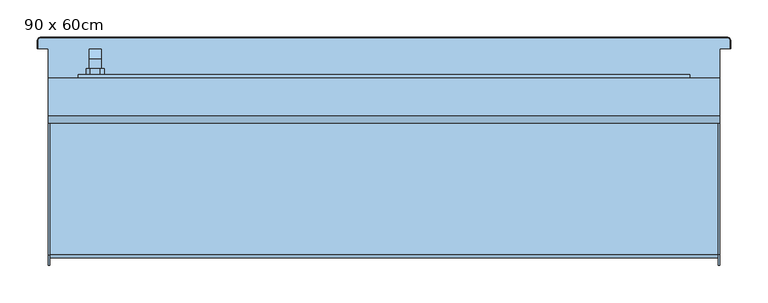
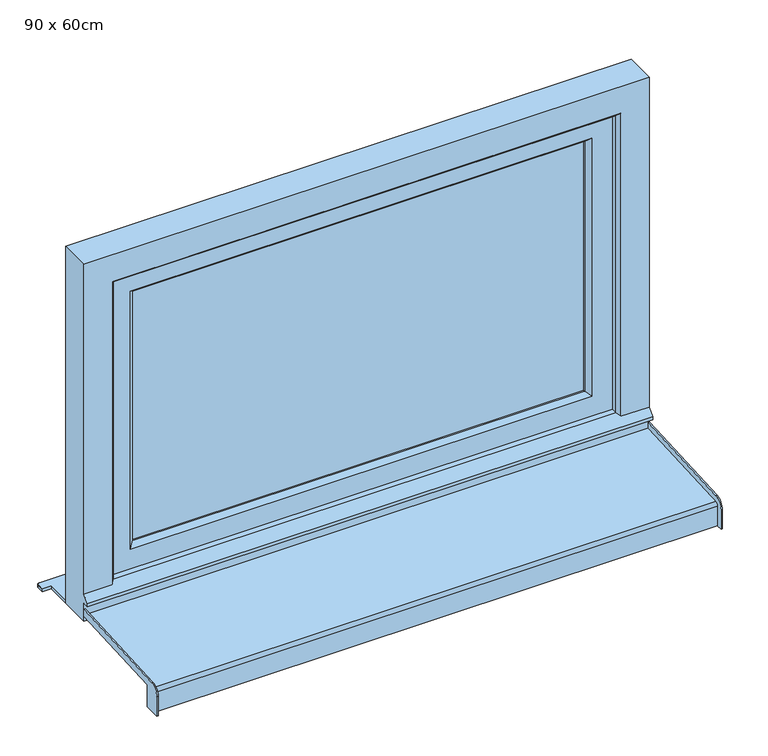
"""IFC4 building model written with IfcOpenShell, lengths in millimetres: window geometry, Fenêtre type 1 : 90 x 60cm."""

import ifcopenshell
import ifcopenshell.guid

model = None  # the IFC model being written
_history = None  # IfcOwnerHistory: only IFC2X3 demands one
_inside = {}  # id of a spatial element -> (the spatial element, [elements in it])
_under = {}  # id of a project, library or spatial element -> (it, [spatial elements below it])
_declared = {}  # id of a project -> (the project, [libraries it declares])
_typed = {}  # id of a type object -> (the type object, [elements of that type])
_made_of = {}  # id of a material, layer set ... -> (it, [elements and type objects made of it])


def new_model(schema):
    """Start an empty IFC model of exactly this schema.

    Asked for "IFC4X3", IfcOpenShell would pick the latest addendum, in which some entities
    have other attributes; the version numbers below select the first issue.
    IFC2X3 requires an IfcOwnerHistory on every rooted entity: one is made here for all.
    """
    global model, _history
    if schema == "IFC4X3":
        model = ifcopenshell.file(schema_version=(4, 3, 0, 0))
    else:
        model = ifcopenshell.file(schema=schema)
    _inside.clear()
    _under.clear()
    _declared.clear()
    _typed.clear()
    _made_of.clear()
    _history = None
    if model.schema == "IFC2X3":
        org = make("IfcOrganization", Name="unknown")
        user = make(
            "IfcPersonAndOrganization",
            ThePerson=make("IfcPerson", FamilyName="unknown"),
            TheOrganization=org,
        )
        app = make(
            "IfcApplication",
            ApplicationDeveloper=org,
            Version="unknown",
            ApplicationFullName="unknown",
            ApplicationIdentifier="unknown",
        )
        _history = make(
            "IfcOwnerHistory",
            OwningUser=user,
            OwningApplication=app,
            ChangeAction="ADDED",
            CreationDate=0,
        )
    return model


def make(cls, **values):
    """One entity of the class cls with the attributes given. An attribute that is None is left unset."""
    return model.create_entity(
        cls, **{name: value for name, value in values.items() if value is not None}
    )


def rooted(cls, **values):
    """An entity with a GlobalId (a new one), such as an element, a storey or a relation."""
    return make(cls, GlobalId=ifcopenshell.guid.new(), OwnerHistory=_history, **values)


def si_unit(unit_type, name, prefix=None):
    """IfcSIUnit, for example si_unit("LENGTHUNIT", "METRE", prefix="MILLI")."""
    return make("IfcSIUnit", UnitType=unit_type, Prefix=prefix, Name=name)


def assignment(units):
    """IfcUnitAssignment: the units of a project."""
    return None if units is None else make("IfcUnitAssignment", Units=units)


def point(xyz):
    """IfcCartesianPoint."""
    return None if xyz is None else make("IfcCartesianPoint", Coordinates=xyz)


def direction(xyz):
    """IfcDirection."""
    return None if xyz is None else make("IfcDirection", DirectionRatios=xyz)


def frame(location, z_axis=None, x_axis=None):
    """IfcAxis2Placement3D, a coordinate frame: its origin and axes. An axis left out is left unset."""
    return make(
        "IfcAxis2Placement3D",
        Location=point(location),
        Axis=direction(z_axis),
        RefDirection=direction(x_axis),
    )


def origin():
    """The frame at (0, 0, 0) with its axes left unset."""
    return frame((0.0, 0.0, 0.0))


def place(relative_to, where):
    """IfcLocalPlacement: puts the frame where relative to a parent placement (None: the world)."""
    return make(
        "IfcLocalPlacement", PlacementRelTo=relative_to, RelativePlacement=where
    )


def context(
    kind, dimensions, precision=None, world=None, true_north=None, identifier=None
):
    """IfcGeometricRepresentationContext, for example the 3D "Model" context."""
    return make(
        "IfcGeometricRepresentationContext",
        ContextIdentifier=identifier,
        ContextType=kind,
        CoordinateSpaceDimension=dimensions,
        Precision=precision,
        WorldCoordinateSystem=world,
        TrueNorth=true_north,
    )


def project(units=None, contexts=None):
    """IfcProject with its units and contexts."""
    return rooted(
        "IfcProject",
        Name="project",
        RepresentationContexts=contexts,
        UnitsInContext=assignment(units),
    )


def spatial(cls, under=None, at=None, **own):
    """A site, building, storey or space (cls), placed at a placement, below another one or the project."""
    s = rooted(cls, ObjectPlacement=at, **own)
    if under is not None:
        _under.setdefault(under.id(), (under, []))[1].append(s)
    return s


def polyline(points):
    """IfcPolyline through the points."""
    return make("IfcPolyline", Points=[point(p) for p in points])


def circle_curve(where, radius):
    """IfcCircle in the frame where."""
    return make("IfcCircle", Position=where, Radius=radius)


def outline(outer, holes=None, kind="AREA"):
    """IfcArbitraryClosedProfileDef: a profile drawn as a closed curve; with holes, ...WithVoids."""
    if holes is None:
        return make("IfcArbitraryClosedProfileDef", ProfileType=kind, OuterCurve=outer)
    return make(
        "IfcArbitraryProfileDefWithVoids",
        ProfileType=kind,
        OuterCurve=outer,
        InnerCurves=holes,
    )


def extrude(swept, where, along, depth):
    """IfcExtrudedAreaSolid: the profile swept, set in the frame where, extruded along a direction by depth."""
    return make(
        "IfcExtrudedAreaSolid",
        SweptArea=swept,
        Position=where,
        ExtrudedDirection=direction(along),
        Depth=depth,
    )


def faces_of(points, faces, orient=None, outer=None):
    """IfcFace entities. A face is a list of loops; a loop is a list of indices into points, from 0.

    orient and outer hold one flag for each loop. By default every Orientation is true, the
    first loop of a face is its IfcFaceOuterBound and the others are IfcFaceBound.
    """
    made = []
    for i, loops in enumerate(faces):
        bounds = []
        for j, loop in enumerate(loops):
            is_outer = j == 0 if outer is None else outer[i][j]
            bounds.append(
                make(
                    "IfcFaceOuterBound" if is_outer else "IfcFaceBound",
                    Bound=make("IfcPolyLoop", Polygon=[points[k] for k in loop]),
                    Orientation=True if orient is None else orient[i][j],
                )
            )
        made.append(make("IfcFace", Bounds=bounds))
    return made


def faceted_brep(points, faces, orient=None, outer=None, voids=None):
    """IfcFacetedBrep: a solid bounded by flat faces; with voids (closed shells), ...WithVoids."""
    shared = [point(p) for p in points]
    hull = make("IfcClosedShell", CfsFaces=faces_of(shared, faces, orient, outer))
    if voids is None:
        return make("IfcFacetedBrep", Outer=hull)
    return make(
        "IfcFacetedBrepWithVoids",
        Outer=hull,
        Voids=[
            make(cls, CfsFaces=faces_of(shared, fs, o, b)) for cls, fs, o, b in voids
        ],
    )


def shape(context_of_items, identifier, shape_type, items):
    """IfcShapeRepresentation: the items that make up one representation, for example the "Body"."""
    return make(
        "IfcShapeRepresentation",
        ContextOfItems=context_of_items,
        RepresentationIdentifier=identifier,
        RepresentationType=shape_type,
        Items=items,
    )


def source(mapping_origin, context_of_items, identifier, shape_type, items):
    """IfcRepresentationMap: a shape defined once, which mapped items show again and again."""
    return make(
        "IfcRepresentationMap",
        MappingOrigin=mapping_origin,
        MappedRepresentation=shape(context_of_items, identifier, shape_type, items),
    )


def transform(
    local_origin,
    x_axis=None,
    y_axis=None,
    z_axis=None,
    scale=None,
    scale2=None,
    scale3=None,
    uniform=True,
):
    """IfcCartesianTransformationOperator3D, or its non-uniform kind. x_axis, y_axis, z_axis: its Axis1, 2, 3."""
    if uniform:
        return make(
            "IfcCartesianTransformationOperator3D",
            Axis1=direction(x_axis),
            Axis2=direction(y_axis),
            LocalOrigin=point(local_origin),
            Scale=scale,
            Axis3=direction(z_axis),
        )
    return make(
        "IfcCartesianTransformationOperator3DnonUniform",
        Axis1=direction(x_axis),
        Axis2=direction(y_axis),
        LocalOrigin=point(local_origin),
        Scale=scale,
        Axis3=direction(z_axis),
        Scale2=scale2,
        Scale3=scale3,
    )


def mapped(mapping_source, mapping_target):
    """IfcMappedItem: shows the shape of a source again, moved by a transform."""
    return make(
        "IfcMappedItem", MappingSource=mapping_source, MappingTarget=mapping_target
    )


def made_of(thing, what):
    """Note that an element or type object is made of a material, layer set ...; save() writes the relation."""
    if what is not None:
        _made_of.setdefault(what.id(), (what, []))[1].append(thing)
    return thing


def element(
    cls,
    number,
    at=None,
    inside=None,
    cuts=None,
    type_object=None,
    material=None,
    context=None,
    identifier="Body",
    shape_type=None,
    held_by="IfcProductDefinitionShape",
    body=None,
    shapes=None,
    **own,
):
    """One element of the class cls, such as IfcWall. Its Tag is "e" and its number.

    at: its placement. inside: the storey or other place that contains it. cuts: it is an
    opening in that element (IfcRelVoidsElement). A single representation is given by context,
    identifier, shape_type and body (its items); several are given by shapes. held_by: the class
    of the entity that holds the representations. save() writes the other relations.
    """
    e = rooted(cls, Tag="e%d" % number, ObjectPlacement=at, **own)
    if body is not None:
        shapes = [shape(context, identifier, shape_type, body)]
    if shapes is not None:
        e.Representation = make(held_by, Representations=shapes)
    if inside is not None:
        _inside.setdefault(inside.id(), (inside, []))[1].append(e)
    if cuts is not None:
        rooted(
            "IfcRelVoidsElement", RelatingBuildingElement=cuts, RelatedOpeningElement=e
        )
    if type_object is not None:
        _typed.setdefault(type_object.id(), (type_object, []))[1].append(e)
    return made_of(e, material)


def aggregate(whole, parts):
    """IfcRelAggregates: a whole, such as a stair, and the parts it consists of."""
    return rooted("IfcRelAggregates", RelatingObject=whole, RelatedObjects=parts)


def save(model, path):
    """Write the relations noted so far, then the file.

    IfcRelAggregates (storeys below a building ...), IfcRelContainedInSpatialStructure (elements
    in a storey), IfcRelDefinesByType, IfcRelAssociatesMaterial and IfcRelDeclares: one each for
    every whole, place, type object, material and project.
    """
    for whole, parts in _under.values():
        aggregate(whole, parts)
    for where, things in _inside.values():
        rooted(
            "IfcRelContainedInSpatialStructure",
            RelatedElements=things,
            RelatingStructure=where,
        )
    for kind, things in _typed.values():
        rooted("IfcRelDefinesByType", RelatedObjects=things, RelatingType=kind)
    for what, things in _made_of.values():
        rooted("IfcRelAssociatesMaterial", RelatedObjects=things, RelatingMaterial=what)
    for by, libraries in _declared.values():
        rooted("IfcRelDeclares", RelatingContext=by, RelatedDefinitions=libraries)
    model.write(path)


def plane_surface(at):
    """IfcPlane: the flat surface through the origin of the frame at, square to its z axis."""
    return make("IfcPlane", Position=at)


def cylinder_surface(at, radius):
    """IfcCylindricalSurface: all points at the distance radius from the z axis of the frame at."""
    return make("IfcCylindricalSurface", Position=at, Radius=radius)


def revolved_surface(curve, axis_point, axis_direction):
    """IfcSurfaceOfRevolution: the curve turned about the line through axis_point along axis_direction."""
    return make(
        "IfcSurfaceOfRevolution",
        SweptCurve=make("IfcArbitraryOpenProfileDef", ProfileType="CURVE", Curve=curve),
        AxisPosition=make("IfcAxis1Placement", Location=point(axis_point), Axis=direction(axis_direction)),
    )


def advanced_brep(points, edges, surfaces, faces):
    """IfcAdvancedBrep: a solid bounded by faces that lie on surfaces and meet in shared edges.

    An edge is (start, end): straight between two places in points (the first is 0);
    or (start, end, curve); or (start, end, curve, False) where it runs against its curve.
    A face is (place in surfaces, loops), or (place, loops, False) where it looks against
    its surface's normal. A loop lists edges by number (the first is 1), with a minus sign
    where the edge is run from its end to its start. The first loop is the outer one.
    """
    corners = [point(p) for p in points]
    vertices = [make("IfcVertexPoint", VertexGeometry=c) for c in corners]
    made = []
    for start, end, *more in edges:
        made.append(
            make(
                "IfcEdgeCurve",
                EdgeStart=vertices[start],
                EdgeEnd=vertices[end],
                EdgeGeometry=more[0] if more else make("IfcPolyline", Points=[corners[start], corners[end]]),
                SameSense=more[1] if len(more) > 1 else True,
            )
        )
    hull = []
    for where, loops, *sense in faces:
        bounds = []
        for j, loop in enumerate(loops):
            ring = [make("IfcOrientedEdge", EdgeElement=made[abs(k) - 1], Orientation=k > 0) for k in loop]
            bounds.append(
                make(
                    "IfcFaceOuterBound" if j == 0 else "IfcFaceBound",
                    Bound=make("IfcEdgeLoop", EdgeList=ring),
                    Orientation=True,
                )
            )
        hull.append(make("IfcAdvancedFace", Bounds=bounds, FaceSurface=surfaces[where], SameSense=sense[0] if sense else True))
    return make("IfcAdvancedBrep", Outer=make("IfcClosedShell", CfsFaces=hull))


def window_90_x_60cm_7dc5db21(model_context):
    return source(origin(), model_context, "Body", "SolidModel", [
        faceted_brep([(-395.5, 98.0, 1306.0), (-395.5, 98.0, 1294.0), (-379.5, 98.0, 1294.0), (-379.5, 98.0, 1306.0), (-379.5, 110.4852814, 1306.0), (-395.5, 110.4852814, 1306.0), (-379.5, 105.5147186, 1294.0), (-379.5, 112.0, 1287.5147186), (-379.5, 112.0, 1287.2282668), (-379.5, 114.7580139, 1208.5355339), (-379.5, 124.0, 1208.5355339), (-379.5, 124.0, 1292.4852814), (-395.5, 105.5147186, 1294.0), (-395.5, 124.0, 1292.4852814), (-395.5, 124.0, 1208.5355339), (-395.5, 114.7580139, 1208.5355339), (-395.5, 112.0099909, 1287.2286157), (-395.5, 112.0, 1287.5147186), (-383.0355339, 124.0, 1205.0), (-383.0355339, 114.8814775, 1205.0), (-391.9644661, 114.8814775, 1205.0), (-391.9644661, 124.0, 1205.0)], [[[0, 1, 2, 3]], [[3, 4, 5, 0]], [[2, 6, 7, 8, 9, 10, 11, 4, 3]], [[1, 12, 6, 2]], [[0, 5, 13, 14, 15, 16, 17, 12, 1]], [[4, 11, 13, 5]], [[6, 12, 17, 7]], [[18, 19, 20, 21]], [[11, 10, 18, 21, 14, 13]], [[17, 16, 8, 7]], [[16, 15, 20, 19, 9, 8]], [[9, 19, 18, 10]], [[14, 21, 20, 15]]]),
        extrude(outline(polyline([(1330.0, -394.5), (1325.0, -399.5), (1275.0, -399.5), (1270.0, -394.5), (1270.0, -380.5), (1275.0, -375.5), (1325.0, -375.5), (1330.0, -380.5), (1330.0, -394.5)])), frame((0.0, 90.0, 0.0), z_axis=(0.0, 1.0, 0.0), x_axis=(0.0, 0.0, 1.0)), (0.0, 0.0, 1.0), 8.0),
        advanced_brep(
        [(-450.0, -140.0, 762.0), (-450.0, -166.5, 762.0), (-450.0, -166.5, 795.1063906), (-450.0, -152.2850393, 810.0858337), (-450.0, 35.0, 819.9010267), (-450.0, 35.0, 808.3852447), (-450.0, -140.0, 799.2138833), (450.0, -140.0, 799.2138833), (450.0, 35.0, 808.3852447), (450.0, 35.0, 819.9010267), (450.0, -152.2850393, 810.0858337), (450.0, -166.5, 795.1063906), (450.0, -166.5, 762.0), (450.0, -140.0, 762.0), (-448.0, 35.0, 819.9010267), (-448.0, 35.0, 809.8873032), (448.0, 35.0, 809.8873032), (448.0, 35.0, 819.9010267), (-448.0, -151.7616798, 800.0995383), (448.0, -151.7616798, 800.0995383), (448.0, -156.5, 795.1063906), (-448.0, -156.5, 795.1063906), (-448.0, -156.5, 762.0), (448.0, -156.5, 762.0), (-448.0, -155.0, 762.0), (448.0, -155.0, 762.0), (448.0, -140.0, 762.0), (448.0, -166.5, 762.0), (-448.0, -166.5, 762.0), (-448.0, -140.0, 762.0), (-448.0, -145.0, 772.0), (448.0, -145.0, 772.0), (-448.0, -146.0606602, 773.0606602), (448.0, -146.0606602, 773.0606602), (-448.0, -155.0, 764.1213203), (448.0, -155.0, 764.1213203), (-448.0, -155.0, 795.0728058), (448.0, -155.0, 795.0728058), (-448.0, -140.0, 799.2138833), (448.0, -140.0, 799.2138833), (448.0, -151.649637, 798.6033517), (-448.0, -151.649637, 798.6033517), (448.0, -166.5, 795.1063906), (448.0, -152.2850393, 810.0858337), (-448.0, -152.2850393, 810.0858337), (-448.0, -166.5, 795.1063906)],
        [
            (0, 1),
            (1, 2),
            (2, 3, circle_curve(frame((-450.0, -151.5, 795.1063906), z_axis=(-1.0, 0.0, 0.0), x_axis=(0.0, -0.05233595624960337, 0.9986295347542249)), 15.0)),
            (3, 4),
            (4, 5),
            (5, 6),
            (6, 0),
            (7, 8),
            (8, 9),
            (9, 10),
            (10, 11, circle_curve(frame((450.0, -151.5, 795.1063906), z_axis=(1.0, 0.0, 0.0), x_axis=(0.0, -1.0, 0.0)), 15.0)),
            (11, 12),
            (12, 13),
            (13, 7),
            (14, 15),
            (15, 16),
            (16, 17),
            (17, 9),
            (8, 5),
            (4, 14),
            (18, 19),
            (19, 16),
            (15, 18),
            (20, 21),
            (21, 22),
            (22, 23),
            (23, 20),
            (24, 25),
            (25, 26),
            (26, 13),
            (12, 27),
            (27, 23),
            (22, 28),
            (28, 1),
            (0, 29),
            (29, 24),
            (30, 31),
            (31, 25),
            (24, 30),
            (32, 33),
            (33, 31),
            (30, 32),
            (34, 35),
            (35, 33),
            (32, 34),
            (36, 37),
            (37, 35),
            (34, 36),
            (38, 6),
            (7, 39),
            (39, 40),
            (40, 41),
            (41, 38),
            (41, 36, circle_curve(frame((-448.0, -151.4646089, 795.0728058), z_axis=(1.0, 0.0, 0.0), x_axis=(0.0, 1.0, 0.0)), 3.5353911)),
            (29, 38),
            (37, 40, circle_curve(frame((448.0, -151.4646089, 795.0728058), z_axis=(-1.0, 0.0, 0.0), x_axis=(0.0, 1.0, 0.0)), 3.5353911)),
            (39, 26),
            (18, 21, circle_curve(frame((-448.0, -151.5, 795.1063906), z_axis=(1.0, 0.0, 0.0), x_axis=(0.0, 1.0, 0.0)), 5.0)),
            (20, 19, circle_curve(frame((448.0, -151.5, 795.1063906), z_axis=(-1.0, 0.0, 0.0), x_axis=(0.0, 1.0, 0.0)), 5.0)),
            (27, 42),
            (42, 43, circle_curve(frame((448.0, -151.5, 795.1063906), z_axis=(-1.0, 0.0, 0.0), x_axis=(0.0, -1.0, 0.0)), 15.0)),
            (43, 17),
            (11, 42),
            (10, 43),
            (14, 44),
            (44, 45, circle_curve(frame((-448.0, -151.5, 795.1063906), z_axis=(1.0, 0.0, 0.0), x_axis=(0.0, -0.05233595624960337, 0.9986295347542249)), 15.0)),
            (45, 28),
            (3, 44),
            (2, 45),
        ],
        [
            plane_surface(frame((-450.0, 35.0, 808.3852447), z_axis=(-1.0, 0.0, 0.0), x_axis=(0.0, 0.0, 1.0))),
            plane_surface(frame((450.0, 35.0, 808.3852447), z_axis=(1.0, 0.0, 0.0), x_axis=(0.0, 0.0, -1.0))),
            plane_surface(frame((-450.0, 35.0, 808.3852447), z_axis=(0.0, 1.0, 0.0), x_axis=(1.0, 0.0, 0.0))),
            plane_surface(frame((-450.0, 35.0, 809.8873032), z_axis=(0.0, -0.052335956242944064, 0.9986295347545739), x_axis=(1.0, 0.0, 0.0))),
            plane_surface(frame((-450.0, -156.5, 795.1063906), z_axis=(0.0, -1.0, 0.0), x_axis=(1.0, 0.0, 0.0))),
            plane_surface(frame((-450.0, -156.5, 762.0), z_axis=(0.0, 0.0, -1.0), x_axis=(1.0, 0.0, 0.0))),
            plane_surface(frame((-450.0, -155.0, 762.0), z_axis=(0.0, 0.7071067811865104, -0.7071067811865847), x_axis=(1.0, 0.0, 0.0))),
            plane_surface(frame((-450.0, -145.0, 772.0), z_axis=(0.0, 0.7071067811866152, 0.7071067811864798), x_axis=(1.0, 0.0, 0.0))),
            plane_surface(frame((-450.0, -146.0606602, 773.0606602), z_axis=(0.0, -0.7071067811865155, 0.7071067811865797), x_axis=(1.0, 0.0, 0.0))),
            plane_surface(frame((-450.0, -155.0, 764.1213203), z_axis=(0.0, 1.0, 0.0), x_axis=(1.0, 0.0, 0.0))),
            plane_surface(frame((-450.0, -151.649637, 798.6033517), z_axis=(0.0, 0.052335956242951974, -0.9986295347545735), x_axis=(1.0, 0.0, 0.0))),
            plane_surface(frame((-448.0, -155.0, 798.4277666), z_axis=(1.0, 0.0, 0.0), x_axis=(0.0, 0.9986295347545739, 0.05233595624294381))),
            plane_surface(frame((-450.0, -140.0, 762.0), z_axis=(0.0, 1.0, 0.0), x_axis=(1.0, 0.0, 0.0))),
            plane_surface(frame((448.0, -155.0, 798.4277666), z_axis=(-1.0, 0.0, 0.0), x_axis=(0.0, 0.0, -1.0))),
            plane_surface(frame((448.0, -140.0, 762.0), z_axis=(0.0, 1.0, 0.0), x_axis=(1.0, 0.0, 0.0))),
            cylinder_surface(frame((450.0, -151.5, 795.1063906), z_axis=(-1.0, 0.0, 0.0), x_axis=(0.0, 1.0, 0.0)), 5.0),
            revolved_surface(polyline([(448.0, -147.9292178, 795.0728058), (-448.0, -147.9292178, 795.0728058)]), (450.0, -151.4646089, 795.0728058), (1.0, 0.0, 0.0)),
            plane_surface(frame((448.0, -156.5, 762.0), z_axis=(-1.0, 0.0, 0.0), x_axis=(0.0, 0.0, 1.0))),
            plane_surface(frame((448.0, -166.5, 762.0), z_axis=(0.0, -1.0, 0.0), x_axis=(0.0, 0.0, 1.0))),
            cylinder_surface(frame((450.0, -151.5, 795.1063906), z_axis=(1.0, 0.0, 0.0), x_axis=(0.0, -1.0, 0.0)), 15.0),
            plane_surface(frame((448.0, -152.2850393, 810.0858337), z_axis=(0.0, -0.0523359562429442, 0.9986295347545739), x_axis=(0.0, 0.9986295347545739, 0.0523359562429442))),
            plane_surface(frame((-448.0, 35.0, 819.9010267), z_axis=(1.0, 0.0, 0.0), x_axis=(0.0, 0.9986295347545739, 0.05233595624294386))),
            plane_surface(frame((-450.0, 35.0, 819.9010267), z_axis=(0.0, -0.05233595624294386, 0.9986295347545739), x_axis=(1.0, 0.0, 0.0))),
            cylinder_surface(frame((-450.0, -151.5, 795.1063906), z_axis=(-1.0, 0.0, 0.0), x_axis=(0.0, -0.05233595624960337, 0.9986295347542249)), 15.0),
            plane_surface(frame((-448.0, -166.5, 795.1063906), z_axis=(0.0, -1.0, 0.0), x_axis=(0.0, 0.0, -1.0))),
        ],
        [
            (0, [[1, 2, 3, 4, 5, 6, 7]]),
            (1, [[8, 9, 10, 11, 12, 13, 14]]),
            (2, [[15, 16, 17, 18, -9, 19, -5, 20]]),
            (3, [[21, 22, -16, 23]]),
            (4, [[24, 25, 26, 27]]),
            (5, [[28, 29, 30, -13, 31, 32, -26, 33, 34, -1, 35, 36]]),
            (6, [[37, 38, -28, 39]]),
            (7, [[40, 41, -37, 42]]),
            (8, [[43, 44, -40, 45]]),
            (9, [[46, 47, -43, 48]]),
            (10, [[49, -6, -19, -8, 50, 51, 52, 53]]),
            (11, [[-53, 54, -48, -45, -42, -39, -36, 55]]),
            (12, [[-35, -7, -49, -55]]),
            (13, [[-38, -41, -44, -47, 56, -51, 57, -29]]),
            (14, [[-50, -14, -30, -57]]),
            (15, [[-21, 58, -24, 59]]),
            (16, [[-52, -56, -46, -54]]),
            (17, [[60, 61, 62, -17, -22, -59, -27, -32]]),
            (18, [[-12, 63, -60, -31]]),
            (19, [[64, -61, -63, -11]]),
            (20, [[-10, -18, -62, -64]]),
            (21, [[65, 66, 67, -33, -25, -58, -23, -15]]),
            (22, [[68, -65, -20, -4]]),
            (23, [[69, -66, -68, -3]]),
            (24, [[-34, -67, -69, -2]]),
        ],
    ),
        extrude(outline(polyline([(-360.0, 80.0), (360.0, 80.0), (360.0, 60.0), (-360.0, 60.0), (-360.0, 80.0)])), frame((0.0, 0.0, 890.0), z_axis=(0.0, 0.0, 1.0), x_axis=(1.0, 0.0, 0.0)), (0.0, 0.0, 1.0), 420.0),
        faceted_brep([(-410.0, 90.0, 840.0), (410.0, 90.0, 840.0), (410.0, 50.0, 840.0), (-410.0, 50.0, 840.0), (410.0, 90.0, 1360.0), (410.0, 50.0, 1360.0), (-410.0, 50.0, 1360.0), (367.0710678, 50.0, 1317.0710678), (367.0710678, 50.0, 882.9289322), (-367.0710678, 50.0, 882.9289322), (-367.0710678, 50.0, 1317.0710678), (-410.0, 90.0, 1360.0), (367.0710678, 90.0, 882.9289322), (367.0710678, 90.0, 1317.0710678), (-367.0710678, 90.0, 1317.0710678), (-367.0710678, 90.0, 882.9289322), (-360.0, 82.9289322, 890.0), (360.0, 82.9289322, 890.0), (360.0, 82.9289322, 1310.0), (360.0, 57.0710678, 890.0), (360.0, 57.0710678, 1310.0), (-360.0, 57.0710678, 890.0), (-360.0, 82.9289322, 1310.0), (-360.0, 57.0710678, 1310.0)], [[[0, 1, 2, 3]], [[1, 4, 5, 2]], [[2, 5, 6, 3], [7, 8, 9, 10]], [[4, 1, 0, 11], [12, 13, 14, 15]], [[16, 17, 12, 15]], [[17, 18, 13, 12]], [[19, 20, 18, 17]], [[9, 8, 19, 21]], [[8, 7, 20, 19]], [[11, 0, 3, 6]], [[22, 16, 15, 14]], [[23, 21, 16, 22]], [[10, 9, 21, 23]], [[21, 19, 17, 16]], [[4, 11, 6, 5]], [[18, 22, 14, 13]], [[7, 10, 23, 20]], [[20, 23, 22, 18]]]),
        faceted_brep([(450.0, 35.0, 800.0), (450.0, 85.0, 800.0), (450.0, 85.0, 1400.0), (450.0, 35.0, 1400.0), (450.0, 35.0, 845.0), (450.0, 25.0, 835.0), (450.0, 25.0, 830.0), (450.0, 35.0, 830.0), (-450.0, 35.0, 830.0), (-450.0, 35.0, 800.0), (-450.0, 25.0, 830.0), (-450.0, 25.0, 835.0), (405.0, 35.0, 845.0), (400.0, 40.0, 850.0), (-400.0, 40.0, 850.0), (-405.0, 35.0, 845.0), (-450.0, 35.0, 845.0), (-450.0, 35.0, 1400.0), (-405.0, 35.0, 1355.0), (405.0, 35.0, 1355.0), (-450.0, 85.0, 800.0), (-450.0, 85.0, 1400.0), (410.0, 85.0, 840.0), (410.0, 85.0, 1360.0), (-410.0, 85.0, 1360.0), (-410.0, 85.0, 840.0), (-410.0, 50.0, 840.0), (410.0, 50.0, 840.0), (-410.0, 50.0, 1360.0), (410.0, 50.0, 1360.0), (400.0, 50.0, 850.0), (400.0, 50.0, 1350.0), (-400.0, 50.0, 1350.0), (-400.0, 50.0, 850.0), (-400.0, 40.0, 1350.0), (400.0, 40.0, 1350.0)], [[[0, 1, 2, 3, 4, 5, 6, 7]], [[7, 8, 9, 0]], [[6, 10, 8, 7]], [[5, 11, 10, 6]], [[5, 4, 12, 13, 14, 15, 16, 11]], [[17, 16, 15, 18, 19, 12, 4, 3]], [[1, 20, 21, 2], [22, 23, 24, 25]], [[0, 9, 20, 1]], [[9, 8, 10, 11, 16, 17, 21, 20]], [[25, 26, 27, 22]], [[26, 25, 24, 28]], [[22, 27, 29, 23]], [[29, 27, 26, 28], [30, 31, 32, 33]], [[33, 14, 13, 30]], [[34, 14, 33, 32]], [[31, 30, 13, 35]], [[35, 13, 12, 19]], [[18, 15, 14, 34]], [[3, 2, 21, 17]], [[28, 24, 23, 29]], [[31, 35, 34, 32]], [[18, 34, 35, 19]]]),
        advanced_brep(
        [(450.0, 125.0, 805.0), (463.9971508, 125.0, 805.0), (463.9971508, 135.0, 805.0), (460.0, 138.9971508, 805.0), (-460.0, 138.9971508, 805.0), (-463.9971508, 135.0, 805.0), (-463.9971508, 125.0, 805.0), (-450.0, 125.0, 805.0), (-450.0, 85.0, 805.0), (450.0, 85.0, 805.0), (-450.0, 125.0, 800.0), (-463.9971508, 125.0, 800.0), (-463.9971508, 135.0, 800.0), (-460.0, 138.9971508, 800.0), (460.0, 138.9971508, 800.0), (463.9971508, 135.0, 800.0), (463.9971508, 125.0, 800.0), (450.0, 125.0, 800.0), (450.0, 85.0, 800.0), (-450.0, 85.0, 800.0), (-465.0, 135.0, 801.0028492), (-465.0, 125.0, 801.0028492), (-465.0, 125.0, 803.9971508), (-465.0, 135.0, 803.9971508), (465.0, 125.0, 801.0028492), (465.0, 125.0, 803.9971508), (465.0, 135.0, 801.0028492), (465.0, 135.0, 803.9971508), (460.0, 140.0, 801.0028492), (-460.0, 140.0, 801.0028492), (-460.0, 140.0, 803.9971508), (460.0, 140.0, 803.9971508)],
        [
            (0, 1),
            (1, 2),
            (2, 3, circle_curve(frame((460.0, 135.0, 805.0), z_axis=(0.0, 0.0, 1.0), x_axis=(0.0, 1.0, 0.0)), 3.9971508)),
            (3, 4),
            (4, 5, circle_curve(frame((-460.0, 135.0, 805.0), z_axis=(0.0, 0.0, 1.0), x_axis=(-1.0, 0.0, 0.0)), 3.9971508)),
            (5, 6),
            (6, 7),
            (7, 8),
            (8, 9),
            (9, 0),
            (10, 11),
            (11, 12),
            (12, 13, circle_curve(frame((-460.0, 135.0, 800.0), z_axis=(0.0, 0.0, -1.0), x_axis=(-1.0, 0.0, 0.0)), 3.9971508)),
            (13, 14),
            (14, 15, circle_curve(frame((460.0, 135.0, 800.0), z_axis=(0.0, 0.0, -1.0), x_axis=(0.0, 1.0, 0.0)), 3.9971508)),
            (15, 16),
            (16, 17),
            (17, 18),
            (18, 19),
            (19, 10),
            (20, 21),
            (21, 22),
            (22, 23),
            (23, 20),
            (6, 22),
            (21, 11),
            (10, 7),
            (19, 8),
            (18, 9),
            (17, 0),
            (16, 24),
            (24, 25),
            (25, 1),
            (24, 26),
            (26, 27),
            (27, 25),
            (28, 29),
            (29, 30),
            (30, 31),
            (31, 28),
            (31, 27, circle_curve(frame((460.0, 135.0, 803.9971508), z_axis=(0.0, 0.0, -1.0), x_axis=(0.0, 1.0, 0.0)), 5.0)),
            (26, 28, circle_curve(frame((460.0, 135.0, 801.0028492), z_axis=(0.0, 0.0, 1.0), x_axis=(0.0, 1.0, 0.0)), 5.0)),
            (23, 30, circle_curve(frame((-460.0, 135.0, 803.9971508), z_axis=(0.0, 0.0, -1.0), x_axis=(0.0, 1.0, 0.0)), 5.0)),
            (29, 20, circle_curve(frame((-460.0, 135.0, 801.0028492), z_axis=(0.0, 0.0, 1.0), x_axis=(0.0, 1.0, 0.0)), 5.0)),
            (5, 23),
            (20, 12),
            (4, 30),
            (29, 13),
            (3, 31),
            (28, 14),
            (2, 27),
            (26, 15),
        ],
        [
            plane_surface(frame((-465.0, 125.0, 805.0), z_axis=(0.0, 0.0, 1.0), x_axis=(0.0, 1.0, 0.0))),
            plane_surface(frame((-465.0, 125.0, 800.0), z_axis=(0.0, 0.0, -1.0), x_axis=(0.0, -1.0, 0.0))),
            plane_surface(frame((-465.0, 135.0, 800.0), z_axis=(-1.0, 0.0, 0.0), x_axis=(0.0, 0.0, 1.0))),
            plane_surface(frame((-465.0, 125.0, 800.0), z_axis=(0.0, -1.0, 0.0), x_axis=(0.0, 0.0, 1.0))),
            plane_surface(frame((-450.0, 125.0, 800.0), z_axis=(-1.0, 0.0, 0.0), x_axis=(0.0, 0.0, 1.0))),
            plane_surface(frame((-450.0, 85.0, 800.0), z_axis=(0.0, -1.0, 0.0), x_axis=(0.0, 0.0, 1.0))),
            plane_surface(frame((450.0, 85.0, 800.0), z_axis=(1.0, 0.0, 0.0), x_axis=(0.0, 0.0, 1.0))),
            plane_surface(frame((450.0, 125.0, 800.0), z_axis=(0.0, -1.0, 0.0), x_axis=(0.0, 0.0, 1.0))),
            plane_surface(frame((465.0, 125.0, 800.0), z_axis=(1.0, 0.0, 0.0), x_axis=(0.0, 0.0, 1.0))),
            plane_surface(frame((460.0, 140.0, 800.0), z_axis=(0.0, 1.0, 0.0), x_axis=(0.0, 0.0, 1.0))),
            cylinder_surface(frame((460.0, 135.0, 805.0), z_axis=(0.0, 0.0, -1.0), x_axis=(0.0, 1.0, 0.0)), 5.0),
            cylinder_surface(frame((-460.0, 135.0, 805.0), z_axis=(0.0, 0.0, -1.0), x_axis=(0.0, 1.0, 0.0)), 5.0),
            plane_surface(frame((-463.9971508, 125.0, 805.0), z_axis=(-0.7071067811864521, 0.0, 0.707106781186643), x_axis=(0.0, 1.0, 0.0))),
            plane_surface(frame((-465.0, 125.0, 801.0028492), z_axis=(-0.7071067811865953, 0.0, -0.7071067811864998), x_axis=(0.0, 1.0, 0.0))),
            revolved_surface(polyline([(-465.0, 135.0, 803.9971508), (-463.9971508, 135.0, 805.0)]), (-460.0, 135.0, 805.0), (0.0, 0.0, 1.0)),
            revolved_surface(polyline([(-463.9971508, 135.0, 800.0), (-465.0, 135.0, 801.0028492)]), (-460.0, 135.0, 805.0), (0.0, 0.0, 1.0)),
            plane_surface(frame((-460.0, 138.9971508, 805.0), z_axis=(0.0, 0.7071067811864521, 0.707106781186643), x_axis=(1.0, 0.0, 0.0))),
            plane_surface(frame((-460.0, 140.0, 801.0028492), z_axis=(0.0, 0.7071067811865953, -0.7071067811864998), x_axis=(1.0, 0.0, 0.0))),
            revolved_surface(polyline([(460.0, 140.0, 803.9971508), (460.0, 138.9971508, 805.0)]), (460.0, 135.0, 805.0), (0.0, 0.0, 1.0)),
            revolved_surface(polyline([(460.0, 138.9971508, 800.0), (460.0, 140.0, 801.0028492)]), (460.0, 135.0, 805.0), (0.0, 0.0, 1.0)),
            plane_surface(frame((463.9971508, 135.0, 805.0), z_axis=(0.7071067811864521, 0.0, 0.707106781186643), x_axis=(0.0, -1.0, 0.0))),
            plane_surface(frame((465.0, 135.0, 801.0028492), z_axis=(0.7071067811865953, 0.0, -0.7071067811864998), x_axis=(0.0, -1.0, 0.0))),
        ],
        [
            (0, [[1, 2, 3, 4, 5, 6, 7, 8, 9, 10]]),
            (1, [[11, 12, 13, 14, 15, 16, 17, 18, 19, 20]]),
            (2, [[21, 22, 23, 24]]),
            (3, [[-7, 25, -22, 26, -11, 27]]),
            (4, [[-27, -20, 28, -8]]),
            (5, [[-28, -19, 29, -9]]),
            (6, [[-29, -18, 30, -10]]),
            (7, [[-17, 31, 32, 33, -1, -30]]),
            (8, [[34, 35, 36, -32]]),
            (9, [[37, 38, 39, 40]]),
            (10, [[41, -35, 42, -40]]),
            (11, [[43, -38, 44, -24]]),
            (12, [[-23, -25, -6, 45]]),
            (13, [[-12, -26, -21, 46]]),
            (14, [[-5, 47, -43, -45]]),
            (15, [[-44, 48, -13, -46]]),
            (16, [[-4, 49, -39, -47]]),
            (17, [[-37, 50, -14, -48]]),
            (18, [[-3, 51, -41, -49]]),
            (19, [[-42, 52, -15, -50]]),
            (20, [[-2, -33, -36, -51]]),
            (21, [[-34, -31, -16, -52]]),
        ],
    ),
    ])


if __name__ == "__main__":
    model = new_model("IFC4")
    model_context = context("Model", 3, world=origin())
    ifc_project = project(units=[si_unit("LENGTHUNIT", "METRE", prefix="MILLI")], contexts=[model_context])
    site = spatial("IfcSite", under=ifc_project)
    building = spatial("IfcBuilding", under=site)
    placement = place(None, origin())
    window_90_x_60cm_shape = window_90_x_60cm_7dc5db21(model_context)
    element("IfcWindow", 1, ObjectType="Fenêtre type 1 : 90 x 60cm", at=placement, inside=building, context=model_context, shape_type="MappedRepresentation", body=[
        mapped(window_90_x_60cm_shape, transform((0.0, 0.0, 0.0), x_axis=(1.0, 0.0, 0.0), y_axis=(0.0, 1.0, 0.0), z_axis=(0.0, 0.0, 1.0))),
    ])
    save(model, "model.ifc")
